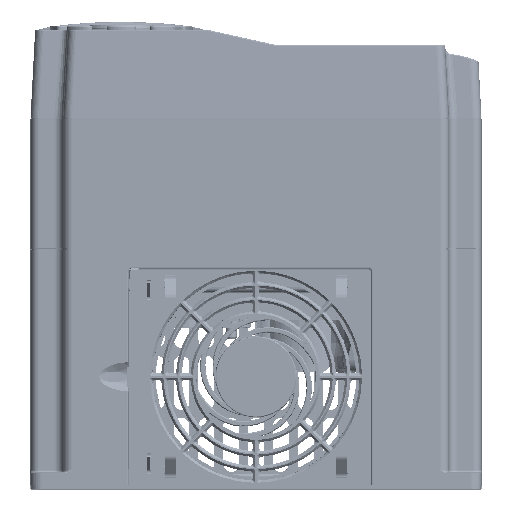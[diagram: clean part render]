
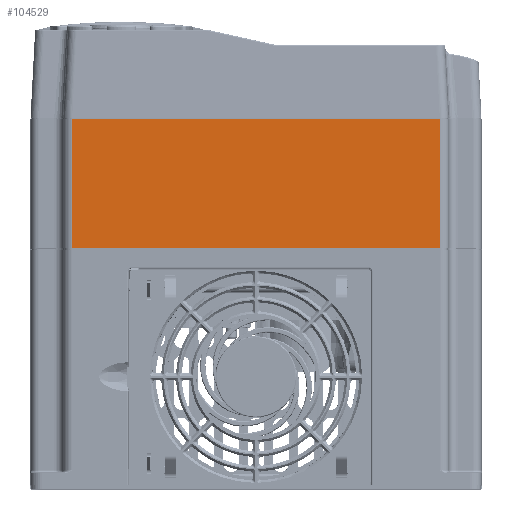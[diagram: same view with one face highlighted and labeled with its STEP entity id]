
A CAD part, top view. The second image highlights one B-rep face of the part: STEP entity #104529.
In plain terms, the highlighted planar face has unit normal (0, 0, 1) as drawn and (1, 0, 0) by its records, which use the part's own axes.
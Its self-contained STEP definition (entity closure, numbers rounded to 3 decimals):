
#87139 = VERTEX_POINT('',#87140);
#87140 = CARTESIAN_POINT('',(170.3,-81.5,0.5));
#87147 = EDGE_CURVE('',#87139,#87148,#87150,.T.);
#87148 = VERTEX_POINT('',#87149);
#87149 = CARTESIAN_POINT('',(170.3,81.5,0.5));
#87150 = LINE('',#87151,#87152);
#87151 = CARTESIAN_POINT('',(170.3,-81.5,0.5));
#87152 = VECTOR('',#87153,1.);
#87153 = DIRECTION('',(0.,1.,0.));
#87775 = VERTEX_POINT('',#87776);
#87776 = CARTESIAN_POINT('',(170.3,81.5,57.8));
#87783 = EDGE_CURVE('',#87784,#87775,#87786,.T.);
#87784 = VERTEX_POINT('',#87785);
#87785 = CARTESIAN_POINT('',(170.3,-81.5,57.8));
#87786 = LINE('',#87787,#87788);
#87787 = CARTESIAN_POINT('',(170.3,-81.5,57.8));
#87788 = VECTOR('',#87789,1.);
#87789 = DIRECTION('',(0.,1.,0.));
#104517 = EDGE_CURVE('',#87148,#87775,#104518,.T.);
#104518 = LINE('',#104519,#104520);
#104519 = CARTESIAN_POINT('',(170.3,81.5,0.5));
#104520 = VECTOR('',#104521,1.);
#104521 = DIRECTION('',(0.,0.,1.));
#104529 = ADVANCED_FACE('',(#104530),#104541,.T.);
#104530 = FACE_BOUND('',#104531,.F.);
#104531 = EDGE_LOOP('',(#104532,#104538,#104539,#104540));
#104532 = ORIENTED_EDGE('',*,*,#104533,.F.);
#104533 = EDGE_CURVE('',#87784,#87139,#104534,.T.);
#104534 = LINE('',#104535,#104536);
#104535 = CARTESIAN_POINT('',(170.3,-81.5,57.8));
#104536 = VECTOR('',#104537,1.);
#104537 = DIRECTION('',(0.,0.,-1.));
#104538 = ORIENTED_EDGE('',*,*,#87783,.T.);
#104539 = ORIENTED_EDGE('',*,*,#104517,.F.);
#104540 = ORIENTED_EDGE('',*,*,#87147,.F.);
#104541 = PLANE('',#104542);
#104542 = AXIS2_PLACEMENT_3D('',#104543,#104544,#104545);
#104543 = CARTESIAN_POINT('',(170.3,-100.,0.));
#104544 = DIRECTION('',(1.,0.,0.));
#104545 = DIRECTION('',(-0.,1.,0.));
